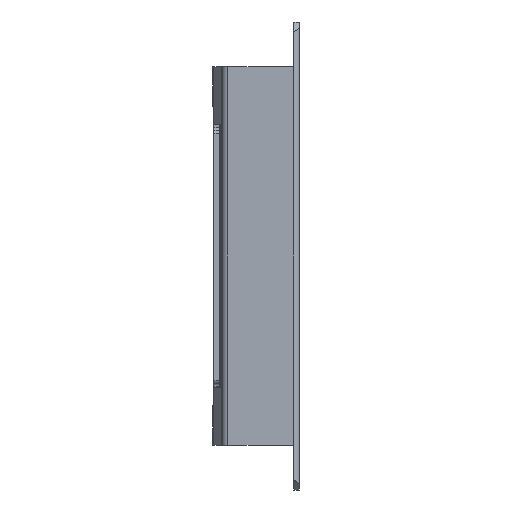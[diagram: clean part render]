
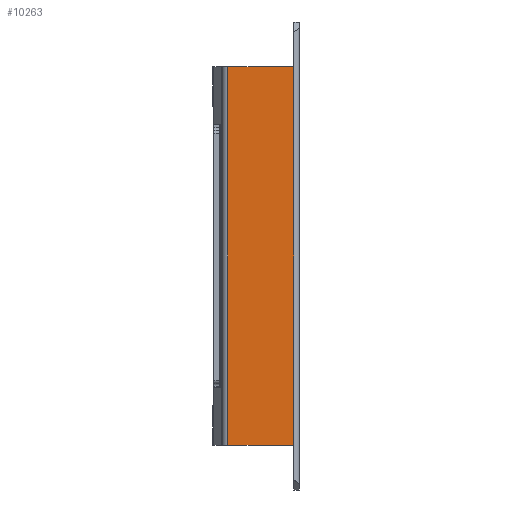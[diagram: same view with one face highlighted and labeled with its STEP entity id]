
A CAD part, front view. The second image highlights one B-rep face of the part: STEP entity #10263.
In plain terms, the highlighted planar face has unit normal (0, -1, 0).
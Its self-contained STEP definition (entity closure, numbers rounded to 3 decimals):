
#207 = LINE ( 'NONE', #7311, #5676 ) ;
#340 = FACE_OUTER_BOUND ( 'NONE', #10151, .T. ) ;
#395 = CARTESIAN_POINT ( 'NONE',  ( -0.5, -18.7, 114. ) ) ;
#963 = CARTESIAN_POINT ( 'NONE',  ( 18.8, -18.7, 126. ) ) ;
#1074 = DIRECTION ( 'NONE',  ( -1., 0., 0. ) ) ;
#1276 = EDGE_CURVE ( 'NONE', #2930, #8232, #9037, .T. ) ;
#1631 = ORIENTED_EDGE ( 'NONE', *, *, #1276, .F. ) ;
#1683 = ORIENTED_EDGE ( 'NONE', *, *, #6871, .F. ) ;
#2283 = DIRECTION ( 'NONE',  ( 0., 1., 0. ) ) ;
#2352 = PLANE ( 'NONE',  #10538 ) ;
#2930 = VERTEX_POINT ( 'NONE', #11970 ) ;
#3313 = CARTESIAN_POINT ( 'NONE',  ( -0.5, -18.7, 126. ) ) ;
#3575 = VECTOR ( 'NONE', #12449, 1000. ) ;
#4616 = CARTESIAN_POINT ( 'NONE',  ( -0.5, -18.7, 12. ) ) ;
#4642 = EDGE_CURVE ( 'NONE', #8232, #13123, #207, .T. ) ;
#5107 = LINE ( 'NONE', #5239, #3575 ) ;
#5239 = CARTESIAN_POINT ( 'NONE',  ( 17.3, -18.7, 114. ) ) ;
#5676 = VECTOR ( 'NONE', #1074, 1000. ) ;
#6271 = VECTOR ( 'NONE', #8111, 1000. ) ;
#6871 = EDGE_CURVE ( 'NONE', #8757, #2930, #5107, .T. ) ;
#7124 = EDGE_CURVE ( 'NONE', #8757, #13123, #8208, .T. ) ;
#7311 = CARTESIAN_POINT ( 'NONE',  ( 17.3, -18.7, 12. ) ) ;
#8111 = DIRECTION ( 'NONE',  ( 0., 0., -1. ) ) ;
#8208 = LINE ( 'NONE', #3313, #10552 ) ;
#8232 = VERTEX_POINT ( 'NONE', #10239 ) ;
#8757 = VERTEX_POINT ( 'NONE', #395 ) ;
#9037 = LINE ( 'NONE', #9104, #6271 ) ;
#9104 = CARTESIAN_POINT ( 'NONE',  ( 17.2, -18.7, 126. ) ) ;
#10151 = EDGE_LOOP ( 'NONE', ( #1631, #1683, #12041, #10759 ) ) ;
#10239 = CARTESIAN_POINT ( 'NONE',  ( 17.2, -18.7, 12. ) ) ;
#10263 = ADVANCED_FACE ( 'NONE', ( #340 ), #2352, .F. ) ;
#10421 = DIRECTION ( 'NONE',  ( -1., 0., 0. ) ) ;
#10538 = AXIS2_PLACEMENT_3D ( 'NONE', #963, #2283, #10421 ) ;
#10552 = VECTOR ( 'NONE', #12252, 1000. ) ;
#10759 = ORIENTED_EDGE ( 'NONE', *, *, #4642, .F. ) ;
#11970 = CARTESIAN_POINT ( 'NONE',  ( 17.2, -18.7, 114. ) ) ;
#12041 = ORIENTED_EDGE ( 'NONE', *, *, #7124, .T. ) ;
#12252 = DIRECTION ( 'NONE',  ( 0., 0., -1. ) ) ;
#12449 = DIRECTION ( 'NONE',  ( 1., 0., 0. ) ) ;
#13123 = VERTEX_POINT ( 'NONE', #4616 ) ;
